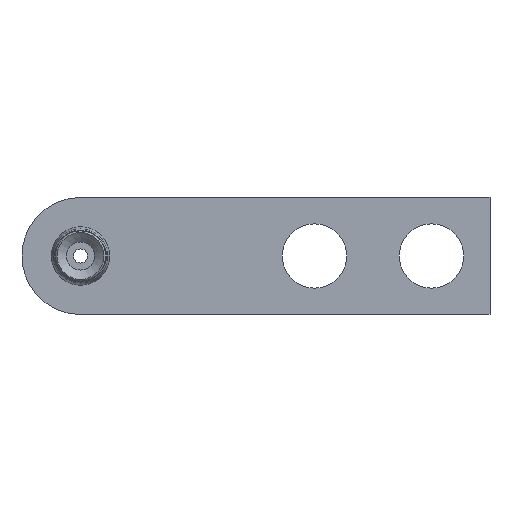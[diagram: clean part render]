
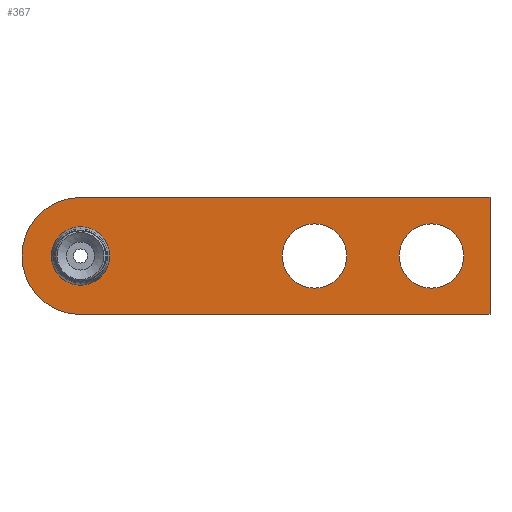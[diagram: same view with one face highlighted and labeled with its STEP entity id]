
A CAD part, front view. The second image highlights one B-rep face of the part: STEP entity #367.
In plain terms, the highlighted planar face has unit normal (0, -1, 0).
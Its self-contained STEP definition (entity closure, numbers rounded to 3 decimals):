
#367=ADVANCED_FACE('',(#500,#501,#502,#503),#504,.F.);
#500=FACE_BOUND('',#687,.T.);
#501=FACE_BOUND('',#688,.T.);
#502=FACE_BOUND('',#689,.T.);
#503=FACE_OUTER_BOUND('',#690,.T.);
#504=PLANE('',#691);
#687=EDGE_LOOP('',(#1008));
#688=EDGE_LOOP('',(#1009));
#689=EDGE_LOOP('',(#1010));
#690=EDGE_LOOP('',(#1011,#1012,#1013,#1014));
#691=AXIS2_PLACEMENT_3D('',#1015,#1016,#1017);
#1008=ORIENTED_EDGE('',*,*,#1215,.T.);
#1009=ORIENTED_EDGE('',*,*,#1216,.T.);
#1010=ORIENTED_EDGE('',*,*,#1207,.T.);
#1011=ORIENTED_EDGE('',*,*,#1203,.F.);
#1012=ORIENTED_EDGE('',*,*,#1217,.F.);
#1013=ORIENTED_EDGE('',*,*,#1212,.F.);
#1014=ORIENTED_EDGE('',*,*,#1209,.F.);
#1015=CARTESIAN_POINT('',(0.,0.0,0.0));
#1016=DIRECTION('',(-0.0,1.0,0.0));
#1017=DIRECTION('',(1.0,0.0,0.0));
#1203=EDGE_CURVE('',#1336,#1337,#1338,.T.);
#1207=EDGE_CURVE('',#1344,#1344,#1345,.T.);
#1209=EDGE_CURVE('',#1337,#1348,#1349,.T.);
#1212=EDGE_CURVE('',#1348,#1353,#1354,.T.);
#1215=EDGE_CURVE('',#1358,#1358,#1359,.T.);
#1216=EDGE_CURVE('',#1360,#1360,#1361,.T.);
#1217=EDGE_CURVE('',#1353,#1336,#1362,.T.);
#1336=VERTEX_POINT('',#1630);
#1337=VERTEX_POINT('',#1631);
#1338=LINE('',#1632,#1633);
#1344=VERTEX_POINT('',#1642);
#1345=CIRCLE('',#1643,2.75);
#1348=VERTEX_POINT('',#1646);
#1349=CIRCLE('',#1647,5.0);
#1353=VERTEX_POINT('',#1652);
#1354=LINE('',#1653,#1654);
#1358=VERTEX_POINT('',#1660);
#1359=CIRCLE('',#1661,2.5);
#1360=VERTEX_POINT('',#1662);
#1361=CIRCLE('',#1663,2.75);
#1362=LINE('',#1664,#1665);
#1630=CARTESIAN_POINT('',(35.0,0.0,-5.0));
#1631=CARTESIAN_POINT('',(0.,0.0,-5.0));
#1632=CARTESIAN_POINT('',(35.0,0.0,-5.0));
#1633=VECTOR('',#1813,1.0);
#1642=CARTESIAN_POINT('',(32.75,0.0,0.0));
#1643=AXIS2_PLACEMENT_3D('',#1817,#1818,#1819);
#1646=CARTESIAN_POINT('',(0.,0.0,5.0));
#1647=AXIS2_PLACEMENT_3D('',#1823,#1824,#1825);
#1652=CARTESIAN_POINT('',(35.0,0.0,5.0));
#1653=CARTESIAN_POINT('',(0.,0.0,5.0));
#1654=VECTOR('',#1830,1.0);
#1660=CARTESIAN_POINT('',(2.5,0.0,0.0));
#1661=AXIS2_PLACEMENT_3D('',#1833,#1834,#1835);
#1662=CARTESIAN_POINT('',(22.75,0.0,0.0));
#1663=AXIS2_PLACEMENT_3D('',#1836,#1837,#1838);
#1664=CARTESIAN_POINT('',(35.0,0.0,5.0));
#1665=VECTOR('',#1839,1.0);
#1813=DIRECTION('',(-1.0,0.0,0.0));
#1817=CARTESIAN_POINT('',(30.0,0.0,0.0));
#1818=DIRECTION('',(-0.0,1.0,0.0));
#1819=DIRECTION('',(1.0,0.0,0.0));
#1823=CARTESIAN_POINT('',(0.,0.0,0.0));
#1824=DIRECTION('',(-0.0,1.0,0.0));
#1825=DIRECTION('',(1.0,0.0,0.0));
#1830=DIRECTION('',(1.0,0.0,0.0));
#1833=CARTESIAN_POINT('',(0.,0.0,0.0));
#1834=DIRECTION('',(-0.0,1.0,0.0));
#1835=DIRECTION('',(1.0,0.0,0.0));
#1836=CARTESIAN_POINT('',(20.0,0.0,0.0));
#1837=DIRECTION('',(-0.0,1.0,0.0));
#1838=DIRECTION('',(1.0,0.0,0.0));
#1839=DIRECTION('',(0.0,0.0,-1.0));
